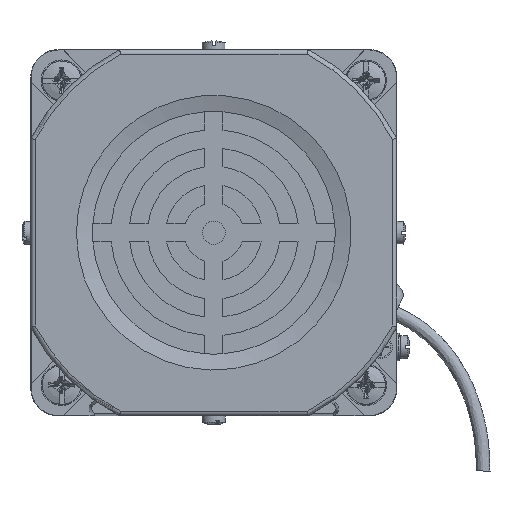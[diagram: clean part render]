
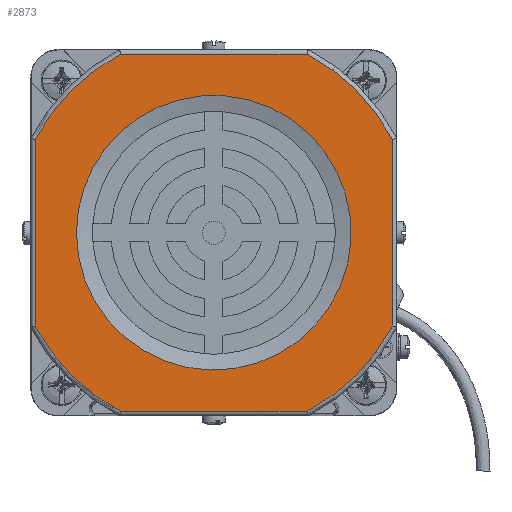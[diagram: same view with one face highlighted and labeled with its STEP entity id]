
A CAD part, left-side view. The second image highlights one B-rep face of the part: STEP entity #2873.
In plain terms, the highlighted planar face has unit normal (-1, 0, 0).
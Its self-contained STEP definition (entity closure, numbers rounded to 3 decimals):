
#845=LINE('',#28662,#1443);
#849=LINE('',#28714,#1447);
#852=LINE('',#28762,#1450);
#853=LINE('',#28786,#1451);
#1443=VECTOR('',#18277,1.);
#1447=VECTOR('',#18293,1.);
#1450=VECTOR('',#18304,1.);
#1451=VECTOR('',#18311,1.);
#2180=FACE_BOUND('',#5010,.T.);
#2181=FACE_BOUND('',#5011,.T.);
#2873=ADVANCED_FACE('',(#2180,#2181),#3469,.F.);
#3469=PLANE('',#16749);
#5010=EDGE_LOOP('',(#8220,#8221,#8222,#8223,#8224,#8225,#8226,#8227));
#5011=EDGE_LOOP('',(#8228));
#8220=ORIENTED_EDGE('',*,*,#12931,.T.);
#8221=ORIENTED_EDGE('',*,*,#12912,.T.);
#8222=ORIENTED_EDGE('',*,*,#12917,.T.);
#8223=ORIENTED_EDGE('',*,*,#12921,.T.);
#8224=ORIENTED_EDGE('',*,*,#12925,.T.);
#8225=ORIENTED_EDGE('',*,*,#12929,.T.);
#8226=ORIENTED_EDGE('',*,*,#12934,.T.);
#8227=ORIENTED_EDGE('',*,*,#12935,.T.);
#8228=ORIENTED_EDGE('',*,*,#13218,.T.);
#10988=VERTEX_POINT('',#28615);
#10989=VERTEX_POINT('',#28617);
#10991=VERTEX_POINT('',#28661);
#10993=VERTEX_POINT('',#28687);
#10995=VERTEX_POINT('',#28713);
#10997=VERTEX_POINT('',#28739);
#10998=VERTEX_POINT('',#28761);
#10999=VERTEX_POINT('',#28785);
#11174=VERTEX_POINT('',#32611);
#12912=EDGE_CURVE('',#10989,#10988,#15806,.T.);
#12917=EDGE_CURVE('',#10988,#10991,#845,.T.);
#12921=EDGE_CURVE('',#10991,#10993,#15808,.T.);
#12925=EDGE_CURVE('',#10993,#10995,#849,.T.);
#12929=EDGE_CURVE('',#10995,#10997,#15810,.T.);
#12931=EDGE_CURVE('',#10998,#10989,#852,.T.);
#12934=EDGE_CURVE('',#10997,#10999,#853,.T.);
#12935=EDGE_CURVE('',#10999,#10998,#15812,.T.);
#13218=EDGE_CURVE('',#11174,#11174,#15911,.T.);
#15806=CIRCLE('',#16545,44.);
#15808=CIRCLE('',#16551,44.);
#15810=CIRCLE('',#16557,44.);
#15812=CIRCLE('',#16563,44.);
#15911=CIRCLE('',#16747,30.);
#16545=AXIS2_PLACEMENT_3D('',#28616,#18268,#18269);
#16551=AXIS2_PLACEMENT_3D('',#28688,#18284,#18285);
#16557=AXIS2_PLACEMENT_3D('',#28740,#18300,#18301);
#16563=AXIS2_PLACEMENT_3D('',#28788,#18314,#18315);
#16747=AXIS2_PLACEMENT_3D('',#32610,#18802,#18803);
#16749=AXIS2_PLACEMENT_3D('',#32613,#18806,#18807);
#18268=DIRECTION('',(-1.,0.,0.));
#18269=DIRECTION('',(0.,0.,-1.));
#18277=DIRECTION('',(0.,0.,-1.));
#18284=DIRECTION('',(-1.,0.,0.));
#18285=DIRECTION('',(0.,0.,-1.));
#18293=DIRECTION('',(0.,-1.,0.));
#18300=DIRECTION('',(-1.,0.,0.));
#18301=DIRECTION('',(0.,0.,-1.));
#18304=DIRECTION('',(0.,1.,0.));
#18311=DIRECTION('',(0.,0.,1.));
#18314=DIRECTION('',(-1.,0.,0.));
#18315=DIRECTION('',(0.,0.,-1.));
#18802=DIRECTION('',(1.,0.,0.));
#18803=DIRECTION('',(0.,1.,0.));
#18806=DIRECTION('',(1.,0.,0.));
#18807=DIRECTION('',(0.,0.,-1.));
#28615=CARTESIAN_POINT('',(-102.,79.,60.372));
#28616=CARTESIAN_POINT('',(-102.,40.,40.));
#28617=CARTESIAN_POINT('',(-102.,60.372,79.));
#28661=CARTESIAN_POINT('',(-102.,79.,19.628));
#28662=CARTESIAN_POINT('',(-102.,79.,19.384));
#28687=CARTESIAN_POINT('',(-102.,60.372,1.));
#28688=CARTESIAN_POINT('',(-102.,40.,40.));
#28713=CARTESIAN_POINT('',(-102.,19.628,1.));
#28714=CARTESIAN_POINT('',(-102.,19.384,1.));
#28739=CARTESIAN_POINT('',(-102.,1.,19.628));
#28740=CARTESIAN_POINT('',(-102.,40.,40.));
#28761=CARTESIAN_POINT('',(-102.,19.628,79.));
#28762=CARTESIAN_POINT('',(-102.,60.616,79.));
#28785=CARTESIAN_POINT('',(-102.,1.,60.372));
#28786=CARTESIAN_POINT('',(-102.,1.,60.616));
#28788=CARTESIAN_POINT('',(-102.,40.,40.));
#32610=CARTESIAN_POINT('',(-102.,40.,40.));
#32611=CARTESIAN_POINT('',(-102.,70.,40.));
#32613=CARTESIAN_POINT('',(-102.,40.,40.));
